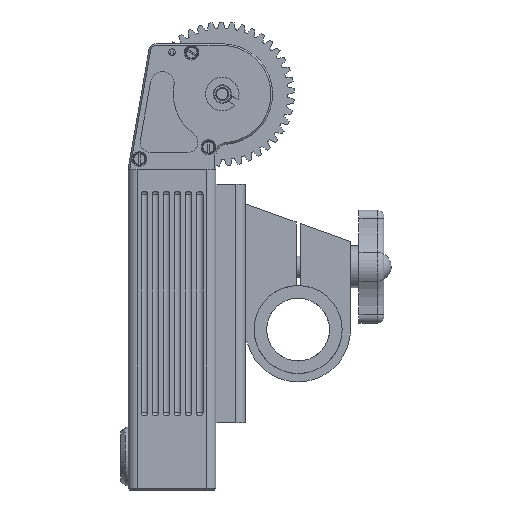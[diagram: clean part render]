
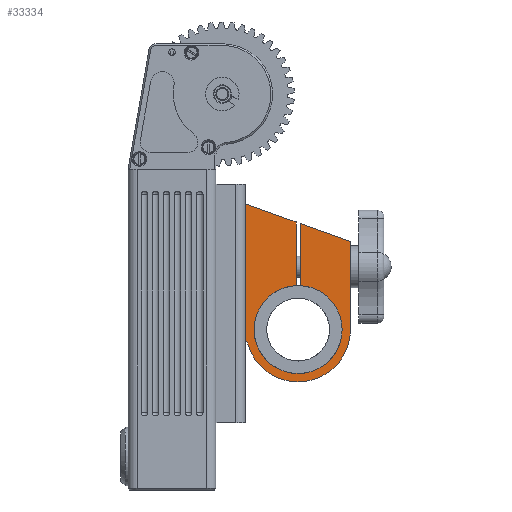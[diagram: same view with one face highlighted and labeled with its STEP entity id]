
A CAD part, left-side view. The second image highlights one B-rep face of the part: STEP entity #33334.
In plain terms, the highlighted planar face has unit normal (-1, 0, 0).
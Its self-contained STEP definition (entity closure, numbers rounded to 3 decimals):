
#56 = ORIENTED_EDGE ( 'NONE', *, *, #51134, .T. ) ;
#60 = DIRECTION ( 'NONE',  ( 0., 0.941, 0.339 ) ) ;
#335 = ORIENTED_EDGE ( 'NONE', *, *, #19528, .T. ) ;
#2644 = VECTOR ( 'NONE', #36879, 1000. ) ;
#3015 = EDGE_LOOP ( 'NONE', ( #24454, #22082, #335, #50111, #43807, #56, #29027, #37029, #8730 ) ) ;
#3427 = CIRCLE ( 'NONE', #49575, 5. ) ;
#3603 = EDGE_CURVE ( 'NONE', #47586, #10491, #19203, .T. ) ;
#3664 = VERTEX_POINT ( 'NONE', #28748 ) ;
#4311 = VECTOR ( 'NONE', #49261, 1000. ) ;
#4496 = VERTEX_POINT ( 'NONE', #25815 ) ;
#5167 = LINE ( 'NONE', #19417, #38827 ) ;
#5353 = CARTESIAN_POINT ( 'NONE',  ( -6., -42.6, -34.712 ) ) ;
#5437 = DIRECTION ( 'NONE',  ( 0., 0., -1. ) ) ;
#5667 = CIRCLE ( 'NONE', #30602, 12.5 ) ;
#5781 = VERTEX_POINT ( 'NONE', #41349 ) ;
#5794 = LINE ( 'NONE', #5353, #27176 ) ;
#5981 = DIRECTION ( 'NONE',  ( 1., 0., 0. ) ) ;
#6642 = AXIS2_PLACEMENT_3D ( 'NONE', #19139, #17421, #31336 ) ;
#8522 = EDGE_CURVE ( 'NONE', #35261, #17940, #5167, .T. ) ;
#8730 = ORIENTED_EDGE ( 'NONE', *, *, #3603, .T. ) ;
#10491 = VERTEX_POINT ( 'NONE', #23240 ) ;
#12900 = DIRECTION ( 'NONE',  ( 0., 0., -1. ) ) ;
#13863 = FACE_OUTER_BOUND ( 'NONE', #3015, .T. ) ;
#14736 = DIRECTION ( 'NONE',  ( 0., 0., 1. ) ) ;
#16216 = VECTOR ( 'NONE', #43993, 1000. ) ;
#17421 = DIRECTION ( 'NONE',  ( 1., 0., 0. ) ) ;
#17841 = EDGE_CURVE ( 'NONE', #3664, #5781, #46998, .T. ) ;
#17940 = VERTEX_POINT ( 'NONE', #19164 ) ;
#19139 = CARTESIAN_POINT ( 'NONE',  ( -6., -30.1, -34.712 ) ) ;
#19164 = CARTESIAN_POINT ( 'NONE',  ( -6., -17.6, -4.712 ) ) ;
#19203 = LINE ( 'NONE', #28393, #4311 ) ;
#19417 = CARTESIAN_POINT ( 'NONE',  ( -6., -17.6, -34.712 ) ) ;
#19528 = EDGE_CURVE ( 'NONE', #5781, #4496, #22009, .T. ) ;
#21839 = VERTEX_POINT ( 'NONE', #35795 ) ;
#22009 = LINE ( 'NONE', #31517, #16216 ) ;
#22082 = ORIENTED_EDGE ( 'NONE', *, *, #17841, .T. ) ;
#23240 = CARTESIAN_POINT ( 'NONE',  ( -6., -30.6, -9.392 ) ) ;
#24454 = ORIENTED_EDGE ( 'NONE', *, *, #51508, .F. ) ;
#25273 = CARTESIAN_POINT ( 'NONE',  ( -6., -30.6, -25.225 ) ) ;
#25815 = CARTESIAN_POINT ( 'NONE',  ( -6., -29.6, -9.032 ) ) ;
#26365 = EDGE_CURVE ( 'NONE', #21839, #47586, #5794, .T. ) ;
#26744 = EDGE_CURVE ( 'NONE', #4496, #17940, #49143, .T. ) ;
#26765 = CARTESIAN_POINT ( 'NONE',  ( -6., -13.329, -39.712 ) ) ;
#27176 = VECTOR ( 'NONE', #42661, 1000. ) ;
#27728 = CARTESIAN_POINT ( 'NONE',  ( -6., -42.6, -13.712 ) ) ;
#28393 = CARTESIAN_POINT ( 'NONE',  ( -6., -42.6, -13.712 ) ) ;
#28748 = CARTESIAN_POINT ( 'NONE',  ( -6., -30.6, -24.224 ) ) ;
#28832 = CARTESIAN_POINT ( 'NONE',  ( -6., -29.6, -9.032 ) ) ;
#29027 = ORIENTED_EDGE ( 'NONE', *, *, #53118, .F. ) ;
#29217 = AXIS2_PLACEMENT_3D ( 'NONE', #30771, #5981, #5437 ) ;
#30602 = AXIS2_PLACEMENT_3D ( 'NONE', #45514, #49674, #12900 ) ;
#30771 = CARTESIAN_POINT ( 'NONE',  ( -6., -30.1, -34.712 ) ) ;
#30851 = CARTESIAN_POINT ( 'NONE',  ( -6., -18.121, -38.283 ) ) ;
#31190 = LINE ( 'NONE', #25273, #2644 ) ;
#31336 = DIRECTION ( 'NONE',  ( 0., 0., -1. ) ) ;
#31517 = CARTESIAN_POINT ( 'NONE',  ( -6., -29.6, -25.225 ) ) ;
#33334 = ADVANCED_FACE ( 'NONE', ( #13863 ), #47643, .F. ) ;
#34293 = VERTEX_POINT ( 'NONE', #30851 ) ;
#35261 = VERTEX_POINT ( 'NONE', #49019 ) ;
#35795 = CARTESIAN_POINT ( 'NONE',  ( -6., -42.6, -34.712 ) ) ;
#36879 = DIRECTION ( 'NONE',  ( 0., 0., 1. ) ) ;
#37029 = ORIENTED_EDGE ( 'NONE', *, *, #26365, .T. ) ;
#38827 = VECTOR ( 'NONE', #14736, 1000. ) ;
#39071 = DIRECTION ( 'NONE',  ( 1., 0., 0. ) ) ;
#41349 = CARTESIAN_POINT ( 'NONE',  ( -6., -29.6, -24.224 ) ) ;
#41999 = VECTOR ( 'NONE', #60, 1000. ) ;
#42661 = DIRECTION ( 'NONE',  ( 0., 0., 1. ) ) ;
#42738 = DIRECTION ( 'NONE',  ( 0., 0., -1. ) ) ;
#43807 = ORIENTED_EDGE ( 'NONE', *, *, #8522, .F. ) ;
#43993 = DIRECTION ( 'NONE',  ( 0., 0., 1. ) ) ;
#45514 = CARTESIAN_POINT ( 'NONE',  ( -6., -30.1, -34.712 ) ) ;
#46998 = CIRCLE ( 'NONE', #29217, 10.5 ) ;
#47586 = VERTEX_POINT ( 'NONE', #27728 ) ;
#47643 = PLANE ( 'NONE',  #6642 ) ;
#49019 = CARTESIAN_POINT ( 'NONE',  ( -6., -17.6, -37.111 ) ) ;
#49143 = LINE ( 'NONE', #28832, #41999 ) ;
#49261 = DIRECTION ( 'NONE',  ( 0., 0.941, 0.339 ) ) ;
#49575 = AXIS2_PLACEMENT_3D ( 'NONE', #26765, #39071, #42738 ) ;
#49674 = DIRECTION ( 'NONE',  ( 1., 0., 0. ) ) ;
#50111 = ORIENTED_EDGE ( 'NONE', *, *, #26744, .T. ) ;
#51134 = EDGE_CURVE ( 'NONE', #35261, #34293, #3427, .T. ) ;
#51508 = EDGE_CURVE ( 'NONE', #3664, #10491, #31190, .T. ) ;
#53118 = EDGE_CURVE ( 'NONE', #21839, #34293, #5667, .T. ) ;
